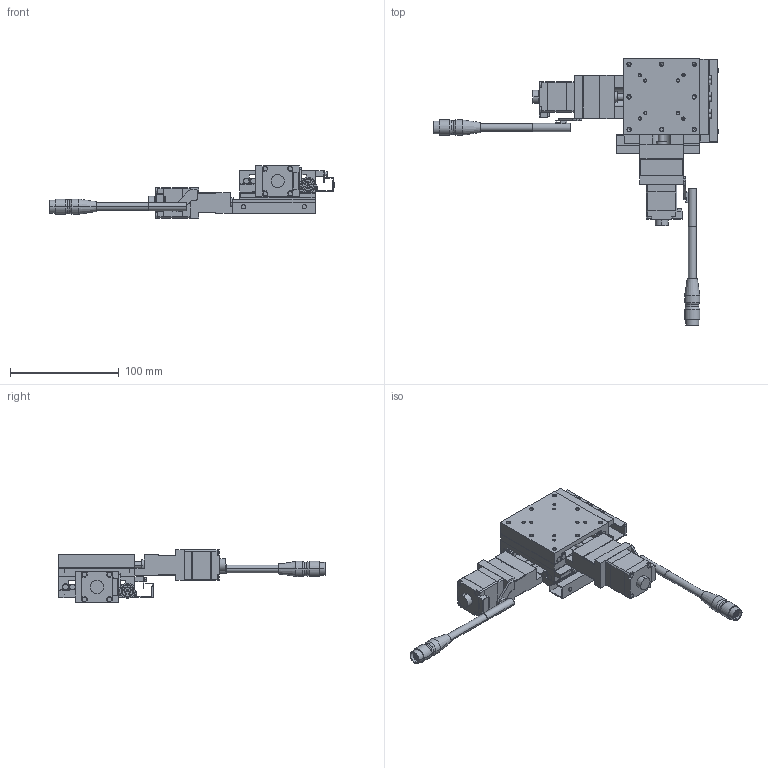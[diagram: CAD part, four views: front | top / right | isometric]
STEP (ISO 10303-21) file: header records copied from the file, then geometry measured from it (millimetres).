
FILE_DESCRIPTION(('STEP AP203'),'1');
FILE_NAME('C:/3D-Trans/3D_PMG715T-L□-C+240122.step','2024-02-27T00:33:08',(' '),(' '),'Spatial InterOp 3D',' ',' ');
FILE_SCHEMA(('CONFIG_CONTROL_DESIGN'));
Length unit declared in the file: millimetre
Products named in the file (12): 1; 2; 3; 4; 5; 6; 7; 8; 9; 10; 11; 12
Bounding box: 262.4 x 245 x 48 mm (x, y, z)
Volume: 272124.8 mm3; surface area: 121550.3 mm2
Topology: 12 solids, 12 shells, 1336 faces, 3348 edges, 2116 vertices
Faces by surface type: plane 730, cylinder 442, cone 164
Entity records: 40180 total; most frequent: DIRECTION 7104, CARTESIAN_POINT 6784, ORIENTED_EDGE 6616, EDGE_CURVE 3308, AXIS2_PLACEMENT_3D 2452, LINE 2200, VECTOR 2200, VERTEX_POINT 2116
